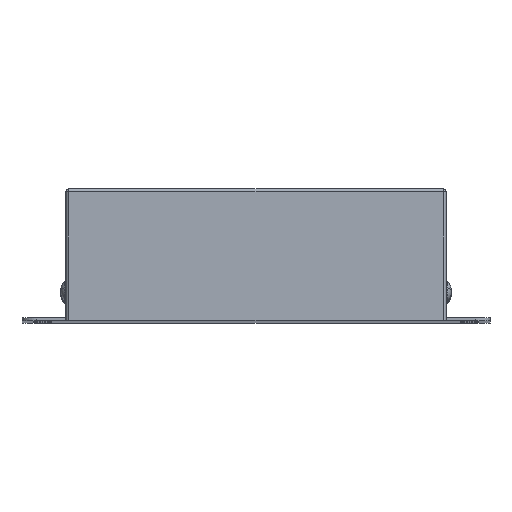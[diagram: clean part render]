
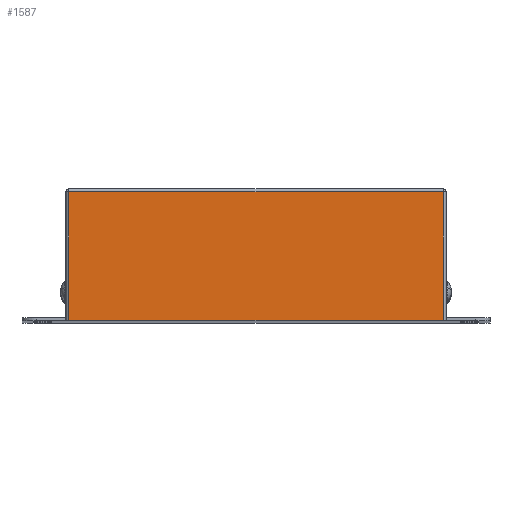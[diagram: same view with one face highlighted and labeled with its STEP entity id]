
A CAD part, top view. The second image highlights one B-rep face of the part: STEP entity #1587.
In plain terms, the highlighted planar face has unit normal (0, 0, 1).
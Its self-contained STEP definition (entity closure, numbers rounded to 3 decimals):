
#103 = CARTESIAN_POINT ( 'NONE',  ( 64., 0., 265. ) ) ;
#160 = LINE ( 'NONE', #3790, #2276 ) ;
#259 = EDGE_CURVE ( 'NONE', #4061, #3660, #2328, .T. ) ;
#353 = FACE_OUTER_BOUND ( 'NONE', #869, .T. ) ;
#604 = VERTEX_POINT ( 'NONE', #981 ) ;
#657 = CARTESIAN_POINT ( 'NONE',  ( -65., 0., 265. ) ) ;
#751 = ORIENTED_EDGE ( 'NONE', *, *, #259, .T. ) ;
#869 = EDGE_LOOP ( 'NONE', ( #3071, #751, #1172, #1969 ) ) ;
#981 = CARTESIAN_POINT ( 'NONE',  ( 64., 0., 265. ) ) ;
#1172 = ORIENTED_EDGE ( 'NONE', *, *, #3702, .T. ) ;
#1380 = AXIS2_PLACEMENT_3D ( 'NONE', #4275, #2277, #2254 ) ;
#1563 = VECTOR ( 'NONE', #2917, 1000. ) ;
#1587 = ADVANCED_FACE ( 'NONE', ( #353 ), #3924, .T. ) ;
#1636 = CARTESIAN_POINT ( 'NONE',  ( -64., 0., 265. ) ) ;
#1708 = LINE ( 'NONE', #103, #2394 ) ;
#1777 = DIRECTION ( 'NONE',  ( 0., 1., 0. ) ) ;
#1893 = DIRECTION ( 'NONE',  ( -1., 0., 0. ) ) ;
#1969 = ORIENTED_EDGE ( 'NONE', *, *, #3354, .T. ) ;
#2206 = VECTOR ( 'NONE', #3997, 1000. ) ;
#2254 = DIRECTION ( 'NONE',  ( 1., 0., 0. ) ) ;
#2276 = VECTOR ( 'NONE', #1893, 1000. ) ;
#2277 = DIRECTION ( 'NONE',  ( 0., 0., 1. ) ) ;
#2328 = LINE ( 'NONE', #2721, #2206 ) ;
#2394 = VECTOR ( 'NONE', #1777, 1000. ) ;
#2529 = VERTEX_POINT ( 'NONE', #3900 ) ;
#2583 = LINE ( 'NONE', #657, #1563 ) ;
#2721 = CARTESIAN_POINT ( 'NONE',  ( -64., 0., 265. ) ) ;
#2917 = DIRECTION ( 'NONE',  ( 1., 0., 0. ) ) ;
#3071 = ORIENTED_EDGE ( 'NONE', *, *, #3885, .T. ) ;
#3354 = EDGE_CURVE ( 'NONE', #604, #2529, #1708, .T. ) ;
#3355 = CARTESIAN_POINT ( 'NONE',  ( -64., 44., 265. ) ) ;
#3660 = VERTEX_POINT ( 'NONE', #1636 ) ;
#3702 = EDGE_CURVE ( 'NONE', #3660, #604, #2583, .T. ) ;
#3790 = CARTESIAN_POINT ( 'NONE',  ( -65., 44., 265. ) ) ;
#3885 = EDGE_CURVE ( 'NONE', #2529, #4061, #160, .T. ) ;
#3900 = CARTESIAN_POINT ( 'NONE',  ( 64., 44., 265. ) ) ;
#3924 = PLANE ( 'NONE',  #1380 ) ;
#3997 = DIRECTION ( 'NONE',  ( 0., -1., 0. ) ) ;
#4061 = VERTEX_POINT ( 'NONE', #3355 ) ;
#4275 = CARTESIAN_POINT ( 'NONE',  ( -65., 0., 265. ) ) ;
